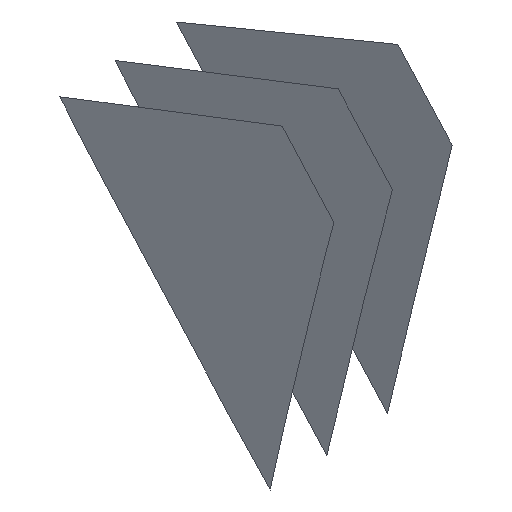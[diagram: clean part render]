
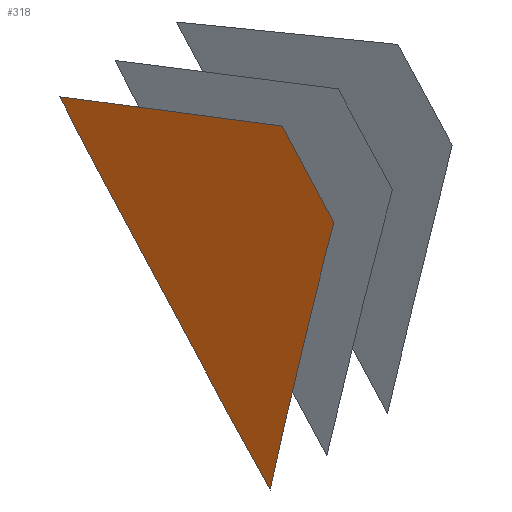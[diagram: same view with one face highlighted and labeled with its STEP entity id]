
A CAD part, front view. The second image highlights one B-rep face of the part: STEP entity #318.
In plain terms, the highlighted free-form (B-spline) face has degree [1, 1] with [2, 2] control points.
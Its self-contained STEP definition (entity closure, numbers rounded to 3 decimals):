
#318 = ADVANCED_FACE('',(#319),#332,.T.);
#319 = FACE_BOUND('',#320,.T.);
#320 = EDGE_LOOP('',(#321,#342,#356,#370,#384,#398,#412,#426,#440,#454)
  );
#321 = ORIENTED_EDGE('',*,*,#322,.T.);
#322 = EDGE_CURVE('',#323,#325,#327,.T.);
#323 = VERTEX_POINT('',#324);
#324 = CARTESIAN_POINT('',(1201.882,-1224.054,
    1017.771));
#325 = VERTEX_POINT('',#326);
#326 = CARTESIAN_POINT('',(1203.004,-1223.997,
    1015.68));
#327 = SURFACE_CURVE('',#328,(#331),.PCURVE_S1.);
#328 = B_SPLINE_CURVE_WITH_KNOTS('',1,(#329,#330),.UNSPECIFIED.,.F.,.F.,
  (2,2),(0.,2.374),.PIECEWISE_BEZIER_KNOTS.);
#329 = CARTESIAN_POINT('',(1201.882,-1224.054,
    1017.771));
#330 = CARTESIAN_POINT('',(1203.004,-1223.997,
    1015.68));
#331 = PCURVE('',#332,#337);
#332 = B_SPLINE_SURFACE_WITH_KNOTS('',1,1,(
    (#333,#334)
    ,(#335,#336
    )),.UNSPECIFIED.,.F.,.F.,.F.,(2,2),(2,2),(-4.475,
    2.608),(-3.448,4.558),
  .PIECEWISE_BEZIER_KNOTS.);
#333 = CARTESIAN_POINT('',(1197.379,-1222.509,
    1019.637));
#334 = CARTESIAN_POINT('',(1195.378,-1219.643,
    1012.434));
#335 = CARTESIAN_POINT('',(1203.617,-1224.649,
    1017.052));
#336 = CARTESIAN_POINT('',(1201.616,-1221.783,
    1009.85));
#337 = DEFINITIONAL_REPRESENTATION('',(#338),#341);
#338 = B_SPLINE_CURVE_WITH_KNOTS('',1,(#339,#340),.UNSPECIFIED.,.F.,.F.,
  (2,2),(0.,2.374),.PIECEWISE_BEZIER_KNOTS.);
#339 = CARTESIAN_POINT('',(0.638,-3.448));
#340 = CARTESIAN_POINT('',(2.373,-1.827));
#341 = ( GEOMETRIC_REPRESENTATION_CONTEXT(2) 
PARAMETRIC_REPRESENTATION_CONTEXT() REPRESENTATION_CONTEXT('2D SPACE',''
  ) );
#342 = ORIENTED_EDGE('',*,*,#343,.T.);
#343 = EDGE_CURVE('',#325,#344,#346,.T.);
#344 = VERTEX_POINT('',#345);
#345 = CARTESIAN_POINT('',(1202.83,-1223.738,
    1015.015));
#346 = SURFACE_CURVE('',#347,(#350),.PCURVE_S1.);
#347 = B_SPLINE_CURVE_WITH_KNOTS('',1,(#348,#349),.UNSPECIFIED.,.F.,.F.,
  (2,2),(0.,0.735),.PIECEWISE_BEZIER_KNOTS.);
#348 = CARTESIAN_POINT('',(1203.004,-1223.997,
    1015.68));
#349 = CARTESIAN_POINT('',(1202.83,-1223.738,
    1015.015));
#350 = PCURVE('',#332,#351);
#351 = DEFINITIONAL_REPRESENTATION('',(#352),#355);
#352 = B_SPLINE_CURVE_WITH_KNOTS('',1,(#353,#354),.UNSPECIFIED.,.F.,.F.,
  (2,2),(0.,0.735),.PIECEWISE_BEZIER_KNOTS.);
#353 = CARTESIAN_POINT('',(2.373,-1.827));
#354 = CARTESIAN_POINT('',(2.383,-1.092));
#355 = ( GEOMETRIC_REPRESENTATION_CONTEXT(2) 
PARAMETRIC_REPRESENTATION_CONTEXT() REPRESENTATION_CONTEXT('2D SPACE',''
  ) );
#356 = ORIENTED_EDGE('',*,*,#357,.T.);
#357 = EDGE_CURVE('',#344,#358,#360,.T.);
#358 = VERTEX_POINT('',#359);
#359 = CARTESIAN_POINT('',(1202.386,-1223.04,
    1013.189));
#360 = SURFACE_CURVE('',#361,(#364),.PCURVE_S1.);
#361 = B_SPLINE_CURVE_WITH_KNOTS('',1,(#362,#363),.UNSPECIFIED.,.F.,.F.,
  (2,2),(0.,2.005),.PIECEWISE_BEZIER_KNOTS.);
#362 = CARTESIAN_POINT('',(1202.83,-1223.738,
    1015.015));
#363 = CARTESIAN_POINT('',(1202.386,-1223.04,
    1013.189));
#364 = PCURVE('',#332,#365);
#365 = DEFINITIONAL_REPRESENTATION('',(#366),#369);
#366 = B_SPLINE_CURVE_WITH_KNOTS('',1,(#367,#368),.UNSPECIFIED.,.F.,.F.,
  (2,2),(0.,2.005),.PIECEWISE_BEZIER_KNOTS.);
#367 = CARTESIAN_POINT('',(2.383,-1.092));
#368 = CARTESIAN_POINT('',(2.448,0.912));
#369 = ( GEOMETRIC_REPRESENTATION_CONTEXT(2) 
PARAMETRIC_REPRESENTATION_CONTEXT() REPRESENTATION_CONTEXT('2D SPACE',''
  ) );
#370 = ORIENTED_EDGE('',*,*,#371,.T.);
#371 = EDGE_CURVE('',#358,#372,#374,.T.);
#372 = VERTEX_POINT('',#373);
#373 = CARTESIAN_POINT('',(1201.951,-1222.345,
    1011.36));
#374 = SURFACE_CURVE('',#375,(#378),.PCURVE_S1.);
#375 = B_SPLINE_CURVE_WITH_KNOTS('',1,(#376,#377),.UNSPECIFIED.,.F.,.F.,
  (2,2),(0.,2.005),.PIECEWISE_BEZIER_KNOTS.);
#376 = CARTESIAN_POINT('',(1202.386,-1223.04,
    1013.189));
#377 = CARTESIAN_POINT('',(1201.951,-1222.345,
    1011.36));
#378 = PCURVE('',#332,#379);
#379 = DEFINITIONAL_REPRESENTATION('',(#380),#383);
#380 = B_SPLINE_CURVE_WITH_KNOTS('',1,(#381,#382),.UNSPECIFIED.,.F.,.F.,
  (2,2),(0.,2.005),.PIECEWISE_BEZIER_KNOTS.);
#381 = CARTESIAN_POINT('',(2.448,0.912));
#382 = CARTESIAN_POINT('',(2.522,2.915));
#383 = ( GEOMETRIC_REPRESENTATION_CONTEXT(2) 
PARAMETRIC_REPRESENTATION_CONTEXT() REPRESENTATION_CONTEXT('2D SPACE',''
  ) );
#384 = ORIENTED_EDGE('',*,*,#385,.T.);
#385 = EDGE_CURVE('',#372,#386,#388,.T.);
#386 = VERTEX_POINT('',#387);
#387 = CARTESIAN_POINT('',(1201.616,-1221.783,
    1009.85));
#388 = SURFACE_CURVE('',#389,(#392),.PCURVE_S1.);
#389 = B_SPLINE_CURVE_WITH_KNOTS('',1,(#390,#391),.UNSPECIFIED.,.F.,.F.,
  (2,2),(0.,1.646),.PIECEWISE_BEZIER_KNOTS.);
#390 = CARTESIAN_POINT('',(1201.951,-1222.345,
    1011.36));
#391 = CARTESIAN_POINT('',(1201.616,-1221.783,
    1009.85));
#392 = PCURVE('',#332,#393);
#393 = DEFINITIONAL_REPRESENTATION('',(#394),#397);
#394 = B_SPLINE_CURVE_WITH_KNOTS('',1,(#395,#396),.UNSPECIFIED.,.F.,.F.,
  (2,2),(0.,1.646),.PIECEWISE_BEZIER_KNOTS.);
#395 = CARTESIAN_POINT('',(2.522,2.915));
#396 = CARTESIAN_POINT('',(2.608,4.558));
#397 = ( GEOMETRIC_REPRESENTATION_CONTEXT(2) 
PARAMETRIC_REPRESENTATION_CONTEXT() REPRESENTATION_CONTEXT('2D SPACE',''
  ) );
#398 = ORIENTED_EDGE('',*,*,#399,.T.);
#399 = EDGE_CURVE('',#386,#400,#402,.T.);
#400 = VERTEX_POINT('',#401);
#401 = CARTESIAN_POINT('',(1200.721,-1221.818,
    1011.481));
#402 = SURFACE_CURVE('',#403,(#406),.PCURVE_S1.);
#403 = B_SPLINE_CURVE_WITH_KNOTS('',1,(#404,#405),.UNSPECIFIED.,.F.,.F.,
  (2,2),(0.,1.861),.PIECEWISE_BEZIER_KNOTS.);
#404 = CARTESIAN_POINT('',(1201.616,-1221.783,
    1009.85));
#405 = CARTESIAN_POINT('',(1200.721,-1221.818,
    1011.481));
#406 = PCURVE('',#332,#407);
#407 = DEFINITIONAL_REPRESENTATION('',(#408),#411);
#408 = B_SPLINE_CURVE_WITH_KNOTS('',1,(#409,#410),.UNSPECIFIED.,.F.,.F.,
  (2,2),(0.,1.861),.PIECEWISE_BEZIER_KNOTS.);
#409 = CARTESIAN_POINT('',(2.608,4.558));
#410 = CARTESIAN_POINT('',(1.236,3.302));
#411 = ( GEOMETRIC_REPRESENTATION_CONTEXT(2) 
PARAMETRIC_REPRESENTATION_CONTEXT() REPRESENTATION_CONTEXT('2D SPACE',''
  ) );
#412 = ORIENTED_EDGE('',*,*,#413,.T.);
#413 = EDGE_CURVE('',#400,#414,#416,.T.);
#414 = VERTEX_POINT('',#415);
#415 = CARTESIAN_POINT('',(1197.866,-1221.961,
    1016.801));
#416 = SURFACE_CURVE('',#417,(#420),.PCURVE_S1.);
#417 = B_SPLINE_CURVE_WITH_KNOTS('',1,(#418,#419),.UNSPECIFIED.,.F.,.F.,
  (2,2),(0.,6.04),.PIECEWISE_BEZIER_KNOTS.);
#418 = CARTESIAN_POINT('',(1200.721,-1221.818,
    1011.481));
#419 = CARTESIAN_POINT('',(1197.866,-1221.961,
    1016.801));
#420 = PCURVE('',#332,#421);
#421 = DEFINITIONAL_REPRESENTATION('',(#422),#425);
#422 = B_SPLINE_CURVE_WITH_KNOTS('',1,(#423,#424),.UNSPECIFIED.,.F.,.F.,
  (2,2),(0.,6.04),.PIECEWISE_BEZIER_KNOTS.);
#423 = CARTESIAN_POINT('',(1.236,3.302));
#424 = CARTESIAN_POINT('',(-3.176,-0.823));
#425 = ( GEOMETRIC_REPRESENTATION_CONTEXT(2) 
PARAMETRIC_REPRESENTATION_CONTEXT() REPRESENTATION_CONTEXT('2D SPACE',''
  ) );
#426 = ORIENTED_EDGE('',*,*,#427,.T.);
#427 = EDGE_CURVE('',#414,#428,#430,.T.);
#428 = VERTEX_POINT('',#429);
#429 = CARTESIAN_POINT('',(1197.384,-1221.991,
    1017.721));
#430 = SURFACE_CURVE('',#431,(#434),.PCURVE_S1.);
#431 = B_SPLINE_CURVE_WITH_KNOTS('',1,(#432,#433),.UNSPECIFIED.,.F.,.F.,
  (2,2),(0.,1.039),.PIECEWISE_BEZIER_KNOTS.);
#432 = CARTESIAN_POINT('',(1197.866,-1221.961,
    1016.801));
#433 = CARTESIAN_POINT('',(1197.384,-1221.991,
    1017.721));
#434 = PCURVE('',#332,#435);
#435 = DEFINITIONAL_REPRESENTATION('',(#436),#439);
#436 = B_SPLINE_CURVE_WITH_KNOTS('',1,(#437,#438),.UNSPECIFIED.,.F.,.F.,
  (2,2),(0.,1.039),.PIECEWISE_BEZIER_KNOTS.);
#437 = CARTESIAN_POINT('',(-3.176,-0.823));
#438 = CARTESIAN_POINT('',(-3.927,-1.54));
#439 = ( GEOMETRIC_REPRESENTATION_CONTEXT(2) 
PARAMETRIC_REPRESENTATION_CONTEXT() REPRESENTATION_CONTEXT('2D SPACE',''
  ) );
#440 = ORIENTED_EDGE('',*,*,#441,.T.);
#441 = EDGE_CURVE('',#428,#442,#444,.T.);
#442 = VERTEX_POINT('',#443);
#443 = CARTESIAN_POINT('',(1197.039,-1222.021,
    1018.412));
#444 = SURFACE_CURVE('',#445,(#448),.PCURVE_S1.);
#445 = B_SPLINE_CURVE_WITH_KNOTS('',1,(#446,#447),.UNSPECIFIED.,.F.,.F.,
  (2,2),(0.,0.773),.PIECEWISE_BEZIER_KNOTS.);
#446 = CARTESIAN_POINT('',(1197.384,-1221.991,
    1017.721));
#447 = CARTESIAN_POINT('',(1197.039,-1222.021,
    1018.412));
#448 = PCURVE('',#332,#449);
#449 = DEFINITIONAL_REPRESENTATION('',(#450),#453);
#450 = B_SPLINE_CURVE_WITH_KNOTS('',1,(#451,#452),.UNSPECIFIED.,.F.,.F.,
  (2,2),(0.,0.773),.PIECEWISE_BEZIER_KNOTS.);
#451 = CARTESIAN_POINT('',(-3.927,-1.54));
#452 = CARTESIAN_POINT('',(-4.475,-2.086));
#453 = ( GEOMETRIC_REPRESENTATION_CONTEXT(2) 
PARAMETRIC_REPRESENTATION_CONTEXT() REPRESENTATION_CONTEXT('2D SPACE',''
  ) );
#454 = ORIENTED_EDGE('',*,*,#455,.T.);
#455 = EDGE_CURVE('',#442,#323,#456,.T.);
#456 = SURFACE_CURVE('',#457,(#460),.PCURVE_S1.);
#457 = B_SPLINE_CURVE_WITH_KNOTS('',1,(#458,#459),.UNSPECIFIED.,.F.,.F.,
  (2,2),(0.,5.291),.PIECEWISE_BEZIER_KNOTS.);
#458 = CARTESIAN_POINT('',(1197.039,-1222.021,
    1018.412));
#459 = CARTESIAN_POINT('',(1201.882,-1224.054,
    1017.771));
#460 = PCURVE('',#332,#461);
#461 = DEFINITIONAL_REPRESENTATION('',(#462),#465);
#462 = B_SPLINE_CURVE_WITH_KNOTS('',1,(#463,#464),.UNSPECIFIED.,.F.,.F.,
  (2,2),(0.,5.291),.PIECEWISE_BEZIER_KNOTS.);
#463 = CARTESIAN_POINT('',(-4.475,-2.086));
#464 = CARTESIAN_POINT('',(0.638,-3.448));
#465 = ( GEOMETRIC_REPRESENTATION_CONTEXT(2) 
PARAMETRIC_REPRESENTATION_CONTEXT() REPRESENTATION_CONTEXT('2D SPACE',''
  ) );
